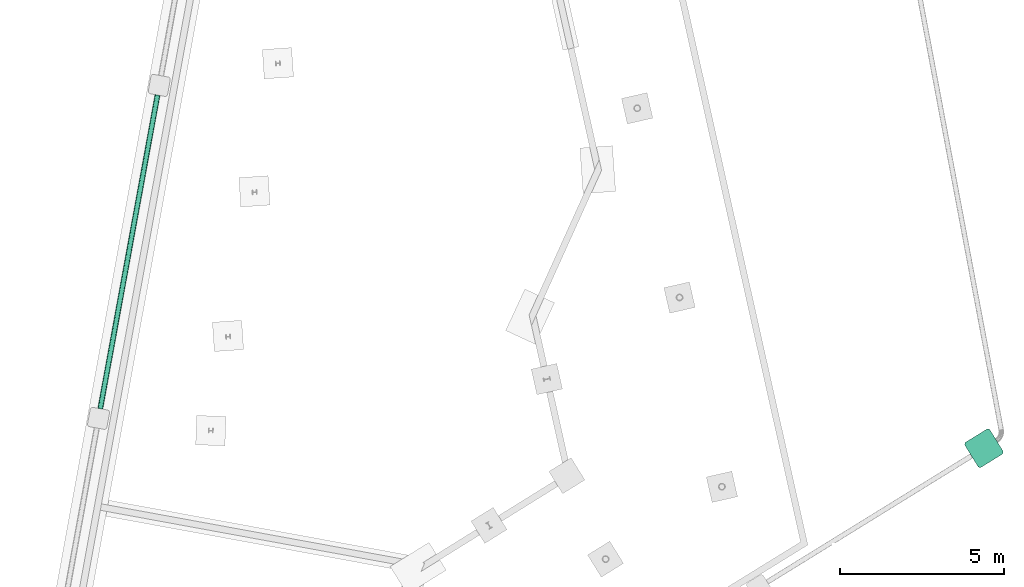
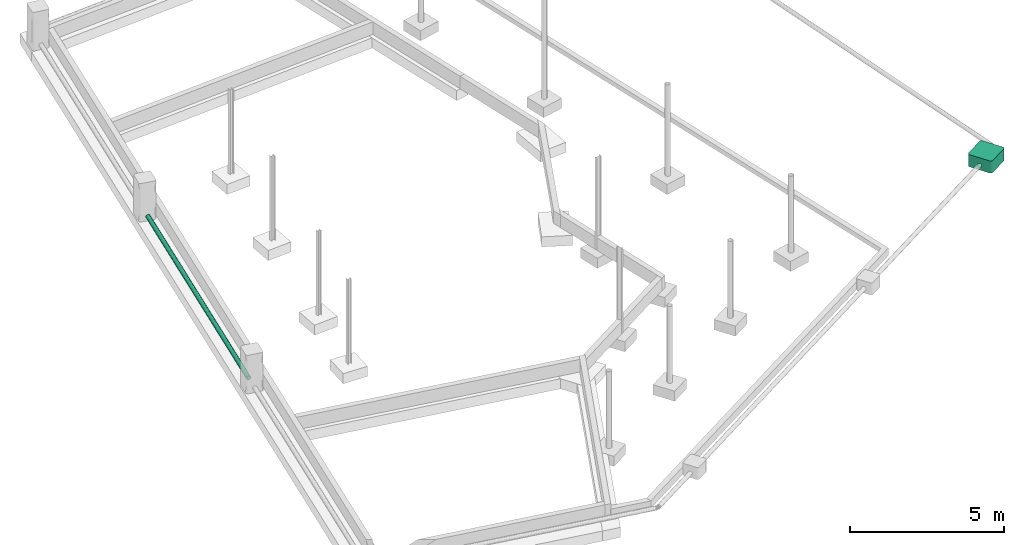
# One storey, part 10 of 17: 1 flow controller, 1 flow segment.
"""IFC2X3 building model written with IfcOpenShell, lengths in centimetres."""

import ifcopenshell
import ifcopenshell.guid

model = None  # the IFC model being written
_history = None  # IfcOwnerHistory: only IFC2X3 demands one
_inside = {}  # id of a spatial element -> (the spatial element, [elements in it])
_under = {}  # id of a project, library or spatial element -> (it, [spatial elements below it])
_declared = {}  # id of a project -> (the project, [libraries it declares])
_typed = {}  # id of a type object -> (the type object, [elements of that type])
_made_of = {}  # id of a material, layer set ... -> (it, [elements and type objects made of it])


def new_model(schema):
    """Start an empty IFC model of exactly this schema.

    Asked for "IFC4X3", IfcOpenShell would pick the latest addendum, in which some entities
    have other attributes; the version numbers below select the first issue.
    IFC2X3 requires an IfcOwnerHistory on every rooted entity: one is made here for all.
    """
    global model, _history
    if schema == "IFC4X3":
        model = ifcopenshell.file(schema_version=(4, 3, 0, 0))
    else:
        model = ifcopenshell.file(schema=schema)
    _inside.clear()
    _under.clear()
    _declared.clear()
    _typed.clear()
    _made_of.clear()
    _history = None
    if model.schema == "IFC2X3":
        org = make("IfcOrganization", Name="unknown")
        user = make(
            "IfcPersonAndOrganization",
            ThePerson=make("IfcPerson", FamilyName="unknown"),
            TheOrganization=org,
        )
        app = make(
            "IfcApplication",
            ApplicationDeveloper=org,
            Version="unknown",
            ApplicationFullName="unknown",
            ApplicationIdentifier="unknown",
        )
        _history = make(
            "IfcOwnerHistory",
            OwningUser=user,
            OwningApplication=app,
            ChangeAction="ADDED",
            CreationDate=0,
        )
    return model


def make(cls, **values):
    """One entity of the class cls with the attributes given. An attribute that is None is left unset."""
    return model.create_entity(
        cls, **{name: value for name, value in values.items() if value is not None}
    )


def entity(cls, *values):
    """Any entity or typed value of the class cls, its attributes in the order of the schema. None: left unset."""
    e = model.create_entity(cls)
    for i, value in enumerate(values):
        if value is not None:
            e[i] = value
    return e


def rooted(cls, **values):
    """An entity with a GlobalId (a new one), such as an element, a storey or a relation."""
    return make(cls, GlobalId=ifcopenshell.guid.new(), OwnerHistory=_history, **values)


def si_unit(unit_type, name, prefix=None):
    """IfcSIUnit, for example si_unit("LENGTHUNIT", "METRE", prefix="MILLI")."""
    return make("IfcSIUnit", UnitType=unit_type, Prefix=prefix, Name=name)


def converted_unit(unit_type, name, factor, base, dimensions=None, offset=None):
    """IfcConversionBasedUnit, such as the inch: factor (a typed value) times the base unit."""
    return make(
        "IfcConversionBasedUnit"
        if offset is None
        else "IfcConversionBasedUnitWithOffset",
        ConversionOffset=offset,
        Dimensions=None
        if dimensions is None
        else entity("IfcDimensionalExponents", *dimensions),
        UnitType=unit_type,
        Name=name,
        ConversionFactor=make(
            "IfcMeasureWithUnit", ValueComponent=factor, UnitComponent=base
        ),
    )


def derived_unit(unit_type, elements):
    """IfcDerivedUnit: a product of units, each with its exponent."""
    return make(
        "IfcDerivedUnit",
        Elements=[
            make("IfcDerivedUnitElement", Unit=unit, Exponent=power)
            for unit, power in elements
        ],
        UnitType=unit_type,
    )


def assignment(units):
    """IfcUnitAssignment: the units of a project."""
    return None if units is None else make("IfcUnitAssignment", Units=units)


def point(xyz):
    """IfcCartesianPoint."""
    return None if xyz is None else make("IfcCartesianPoint", Coordinates=xyz)


def direction(xyz):
    """IfcDirection."""
    return None if xyz is None else make("IfcDirection", DirectionRatios=xyz)


def frame(location, z_axis=None, x_axis=None):
    """IfcAxis2Placement3D, a coordinate frame: its origin and axes. An axis left out is left unset."""
    return make(
        "IfcAxis2Placement3D",
        Location=point(location),
        Axis=direction(z_axis),
        RefDirection=direction(x_axis),
    )


def frame_2d(location, x_axis=None):
    """IfcAxis2Placement2D, a coordinate frame in the plane: its origin and x axis."""
    return make(
        "IfcAxis2Placement2D", Location=point(location), RefDirection=direction(x_axis)
    )


def origin():
    """The frame at (0, 0, 0) with its axes left unset."""
    return frame((0.0, 0.0, 0.0))


def origin_2d_with_axis():
    """The frame at (0, 0) in the plane with the x axis (1, 0) written out."""
    return frame_2d((0.0, 0.0), x_axis=(1.0, 0.0))


def place(relative_to, where):
    """IfcLocalPlacement: puts the frame where relative to a parent placement (None: the world)."""
    return make(
        "IfcLocalPlacement", PlacementRelTo=relative_to, RelativePlacement=where
    )


def context(
    kind, dimensions, precision=None, world=None, true_north=None, identifier=None
):
    """IfcGeometricRepresentationContext, for example the 3D "Model" context."""
    return make(
        "IfcGeometricRepresentationContext",
        ContextIdentifier=identifier,
        ContextType=kind,
        CoordinateSpaceDimension=dimensions,
        Precision=precision,
        WorldCoordinateSystem=world,
        TrueNorth=true_north,
    )


def subcontext(parent, identifier, kind, view, scale=None):
    """IfcGeometricRepresentationSubContext, for example "Body" below "Model"."""
    return make(
        "IfcGeometricRepresentationSubContext",
        ContextIdentifier=identifier,
        ContextType=kind,
        ParentContext=parent,
        TargetScale=scale,
        TargetView=view,
    )


def project(units=None, contexts=None):
    """IfcProject with its units and contexts."""
    return rooted(
        "IfcProject",
        Name="project",
        RepresentationContexts=contexts,
        UnitsInContext=assignment(units),
    )


def spatial(cls, under=None, at=None, **own):
    """A site, building, storey or space (cls), placed at a placement, below another one or the project."""
    s = rooted(cls, ObjectPlacement=at, **own)
    if under is not None:
        _under.setdefault(under.id(), (under, []))[1].append(s)
    return s


def profile(cls, at=None, kind="AREA", **sizes):
    """A parametric profile (cls). Its sizes go by their IFC names, for example OverallWidth=200.0."""
    return make(cls, ProfileType=kind, Position=at, **sizes)


def circle(**sizes):
    """IfcCircleProfileDef."""
    return profile("IfcCircleProfileDef", **sizes)


def extrude(swept, where, along, depth):
    """IfcExtrudedAreaSolid: the profile swept, set in the frame where, extruded along a direction by depth."""
    return make(
        "IfcExtrudedAreaSolid",
        SweptArea=swept,
        Position=where,
        ExtrudedDirection=direction(along),
        Depth=depth,
    )


def faces_of(points, faces, orient=None, outer=None):
    """IfcFace entities. A face is a list of loops; a loop is a list of indices into points, from 0.

    orient and outer hold one flag for each loop. By default every Orientation is true, the
    first loop of a face is its IfcFaceOuterBound and the others are IfcFaceBound.
    """
    made = []
    for i, loops in enumerate(faces):
        bounds = []
        for j, loop in enumerate(loops):
            is_outer = j == 0 if outer is None else outer[i][j]
            bounds.append(
                make(
                    "IfcFaceOuterBound" if is_outer else "IfcFaceBound",
                    Bound=make("IfcPolyLoop", Polygon=[points[k] for k in loop]),
                    Orientation=True if orient is None else orient[i][j],
                )
            )
        made.append(make("IfcFace", Bounds=bounds))
    return made


def faceted_brep(points, faces, orient=None, outer=None, voids=None):
    """IfcFacetedBrep: a solid bounded by flat faces; with voids (closed shells), ...WithVoids."""
    shared = [point(p) for p in points]
    hull = make("IfcClosedShell", CfsFaces=faces_of(shared, faces, orient, outer))
    if voids is None:
        return make("IfcFacetedBrep", Outer=hull)
    return make(
        "IfcFacetedBrepWithVoids",
        Outer=hull,
        Voids=[
            make(cls, CfsFaces=faces_of(shared, fs, o, b)) for cls, fs, o, b in voids
        ],
    )


def shape(context_of_items, identifier, shape_type, items):
    """IfcShapeRepresentation: the items that make up one representation, for example the "Body"."""
    return make(
        "IfcShapeRepresentation",
        ContextOfItems=context_of_items,
        RepresentationIdentifier=identifier,
        RepresentationType=shape_type,
        Items=items,
    )


def source(mapping_origin, context_of_items, identifier, shape_type, items):
    """IfcRepresentationMap: a shape defined once, which mapped items show again and again."""
    return make(
        "IfcRepresentationMap",
        MappingOrigin=mapping_origin,
        MappedRepresentation=shape(context_of_items, identifier, shape_type, items),
    )


def transform(
    local_origin,
    x_axis=None,
    y_axis=None,
    z_axis=None,
    scale=None,
    scale2=None,
    scale3=None,
    uniform=True,
):
    """IfcCartesianTransformationOperator3D, or its non-uniform kind. x_axis, y_axis, z_axis: its Axis1, 2, 3."""
    if uniform:
        return make(
            "IfcCartesianTransformationOperator3D",
            Axis1=direction(x_axis),
            Axis2=direction(y_axis),
            LocalOrigin=point(local_origin),
            Scale=scale,
            Axis3=direction(z_axis),
        )
    return make(
        "IfcCartesianTransformationOperator3DnonUniform",
        Axis1=direction(x_axis),
        Axis2=direction(y_axis),
        LocalOrigin=point(local_origin),
        Scale=scale,
        Axis3=direction(z_axis),
        Scale2=scale2,
        Scale3=scale3,
    )


def mapped(mapping_source, mapping_target):
    """IfcMappedItem: shows the shape of a source again, moved by a transform."""
    return make(
        "IfcMappedItem", MappingSource=mapping_source, MappingTarget=mapping_target
    )


def material(Name=None, Category=None):
    """IfcMaterial."""
    return make("IfcMaterial", Name=Name, Category=Category)


def made_of(thing, what):
    """Note that an element or type object is made of a material, layer set ...; save() writes the relation."""
    if what is not None:
        _made_of.setdefault(what.id(), (what, []))[1].append(thing)
    return thing


def type_object(cls, material=None, **own):
    """A type object (cls), such as IfcWallType, which elements share."""
    return made_of(rooted(cls, **own), material)


def type_shapes(of_type, sources):
    """Give a type object the sources (RepresentationMaps) that its elements show as mapped items."""
    of_type.RepresentationMaps = sources


def element(
    cls,
    number,
    at=None,
    inside=None,
    cuts=None,
    type_object=None,
    material=None,
    context=None,
    identifier="Body",
    shape_type=None,
    held_by="IfcProductDefinitionShape",
    body=None,
    shapes=None,
    **own,
):
    """One element of the class cls, such as IfcWall. Its Tag is "e" and its number.

    at: its placement. inside: the storey or other place that contains it. cuts: it is an
    opening in that element (IfcRelVoidsElement). A single representation is given by context,
    identifier, shape_type and body (its items); several are given by shapes. held_by: the class
    of the entity that holds the representations. save() writes the other relations.
    """
    e = rooted(cls, Tag="e%d" % number, ObjectPlacement=at, **own)
    if body is not None:
        shapes = [shape(context, identifier, shape_type, body)]
    if shapes is not None:
        e.Representation = make(held_by, Representations=shapes)
    if inside is not None:
        _inside.setdefault(inside.id(), (inside, []))[1].append(e)
    if cuts is not None:
        rooted(
            "IfcRelVoidsElement", RelatingBuildingElement=cuts, RelatedOpeningElement=e
        )
    if type_object is not None:
        _typed.setdefault(type_object.id(), (type_object, []))[1].append(e)
    return made_of(e, material)


def aggregate(whole, parts):
    """IfcRelAggregates: a whole, such as a stair, and the parts it consists of."""
    return rooted("IfcRelAggregates", RelatingObject=whole, RelatedObjects=parts)


def save(model, path):
    """Write the relations noted so far, then the file.

    IfcRelAggregates (storeys below a building ...), IfcRelContainedInSpatialStructure (elements
    in a storey), IfcRelDefinesByType, IfcRelAssociatesMaterial and IfcRelDeclares: one each for
    every whole, place, type object, material and project.
    """
    for whole, parts in _under.values():
        aggregate(whole, parts)
    for where, things in _inside.values():
        rooted(
            "IfcRelContainedInSpatialStructure",
            RelatedElements=things,
            RelatingStructure=where,
        )
    for kind, things in _typed.values():
        rooted("IfcRelDefinesByType", RelatedObjects=things, RelatingType=kind)
    for what, things in _made_of.values():
        rooted("IfcRelAssociatesMaterial", RelatedObjects=things, RelatingMaterial=what)
    for by, libraries in _declared.values():
        rooted("IfcRelDeclares", RelatingContext=by, RelatedDefinitions=libraries)
    model.write(path)


model = new_model("IFC2X3")

# Units and contexts
model_context = context("Model", 3, precision=0.001, world=origin(), true_north=direction((6.12303176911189e-17, 1.0)))
body_context = subcontext(model_context, "Body", "Model", "MODEL_VIEW")
ifc_project = project(units=[si_unit("LENGTHUNIT", "METRE", prefix="CENTI"), si_unit("AREAUNIT", "SQUARE_METRE"), si_unit("VOLUMEUNIT", "CUBIC_METRE"), converted_unit("PLANEANGLEUNIT", "DEGREE", entity("IfcRatioMeasure", 0.0174532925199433), si_unit("PLANEANGLEUNIT", "RADIAN"), dimensions=[0, 0, 0, 0, 0, 0, 0]), si_unit("MASSUNIT", "GRAM", prefix="KILO"), derived_unit("MASSDENSITYUNIT", [(si_unit("MASSUNIT", "GRAM", prefix="KILO"), 1), (si_unit("LENGTHUNIT", "METRE"), -3)]), si_unit("TIMEUNIT", "SECOND"), si_unit("FREQUENCYUNIT", "HERTZ"), si_unit("THERMODYNAMICTEMPERATUREUNIT", "DEGREE_CELSIUS"), derived_unit("THERMALTRANSMITTANCEUNIT", [(si_unit("MASSUNIT", "GRAM", prefix="KILO"), 1), (si_unit("THERMODYNAMICTEMPERATUREUNIT", "KELVIN"), -1), (si_unit("TIMEUNIT", "SECOND"), -3)]), derived_unit("VOLUMETRICFLOWRATEUNIT", [(si_unit("LENGTHUNIT", "METRE"), 3), (si_unit("TIMEUNIT", "SECOND"), -1)]), si_unit("ELECTRICCURRENTUNIT", "AMPERE"), si_unit("ELECTRICVOLTAGEUNIT", "VOLT"), si_unit("POWERUNIT", "WATT"), si_unit("FORCEUNIT", "NEWTON", prefix="KILO"), si_unit("ILLUMINANCEUNIT", "LUX"), si_unit("LUMINOUSFLUXUNIT", "LUMEN"), si_unit("LUMINOUSINTENSITYUNIT", "CANDELA"), derived_unit("USERDEFINED", [(si_unit("MASSUNIT", "GRAM", prefix="KILO"), -1), (si_unit("LENGTHUNIT", "METRE"), -2), (si_unit("TIMEUNIT", "SECOND"), 3), (si_unit("LUMINOUSFLUXUNIT", "LUMEN"), 1)]), derived_unit("LINEARVELOCITYUNIT", [(si_unit("LENGTHUNIT", "METRE"), 1), (si_unit("TIMEUNIT", "SECOND"), -1)]), si_unit("PRESSUREUNIT", "PASCAL"), derived_unit("USERDEFINED", [(si_unit("LENGTHUNIT", "METRE"), -2), (si_unit("MASSUNIT", "GRAM", prefix="KILO"), 1), (si_unit("TIMEUNIT", "SECOND"), -2)])], contexts=[model_context])

# Site, building, storey
site_placement = place(None, frame((2611.71187422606, 13650.4058644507, 0.0), z_axis=(0.0, 0.0, 1.0), x_axis=(0.0673222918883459, -0.997731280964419, 0.0)))
site = spatial("IfcSite", under=ifc_project, at=site_placement, Name="Surface", CompositionType="ELEMENT")
building_placement = place(site_placement, origin())
building = spatial("IfcBuilding", under=site, at=building_placement, CompositionType="ELEMENT")
storey_placement = place(building_placement, frame((0.0, 0.0, 86950.0)))
storey = spatial("IfcBuildingStorey", under=building, at=storey_placement, Name="-1 Soubassement", CompositionType="ELEMENT", Elevation=86950.0)

# Flow controller
ifc_material = material(Name="Béton, précoulé")
valve_type = type_object("IfcValveType", Name="Regard EP 900x900", PredefinedType="NOTDEFINED", material=ifc_material)
shared_shape = source(origin(), body_context, "Body", "Brep", [
    faceted_brep([(82.1595272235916, 90.1595272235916, 48.0), (8.15952722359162, 90.1595272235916, 48.0), (6.08897486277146, 89.8869338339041, 48.0), (4.15952722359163, 89.0877304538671, 48.0), (2.50267297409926, 87.816381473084, 48.0), (1.23132399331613, 86.1595272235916, 48.0), (0.43212061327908, 84.2300795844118, 48.0), (0.159527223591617, 82.1595272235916, 48.0), (0.159527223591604, 8.15952722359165, 48.0), (0.432120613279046, 6.08897486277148, 48.0), (1.23132399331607, 4.15952722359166, 48.0), (2.50267297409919, 2.50267297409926, 48.0), (4.15952722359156, 1.23132399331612, 48.0), (6.08897486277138, 0.43212061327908, 48.0), (8.15952722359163, 0.159527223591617, 48.0), (82.1595272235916, 0.159527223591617, 48.0), (84.2300795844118, 0.43212061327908, 48.0), (86.1595272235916, 1.23132399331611, 48.0), (87.816381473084, 2.50267297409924, 48.0), (89.0877304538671, 4.15952722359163, 48.0), (89.8869338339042, 6.08897486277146, 48.0), (90.1595272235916, 8.15952722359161, 48.0), (90.1595272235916, 82.1595272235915, 48.0), (89.8869338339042, 84.2300795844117, 48.0), (89.0877304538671, 86.1595272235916, 48.0), (87.816381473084, 87.8163814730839, 48.0), (86.1595272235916, 89.0877304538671, 48.0), (84.2300795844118, 89.8869338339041, 48.0), (0.159527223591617, 82.1595272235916, 43.0), (0.43212061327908, 84.2300795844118, 43.0), (1.23132399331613, 86.1595272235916, 43.0), (2.50267297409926, 87.816381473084, 43.0), (4.15952722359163, 89.0877304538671, 43.0), (6.08897486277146, 89.8869338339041, 43.0), (8.15952722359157, 90.1595272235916, 43.0), (82.1595272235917, 90.1595272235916, 43.0), (84.2300795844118, 89.8869338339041, 43.0), (86.1595272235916, 89.0877304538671, 43.0), (87.816381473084, 87.8163814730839, 43.0), (89.0877304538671, 86.1595272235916, 43.0), (89.8869338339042, 84.2300795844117, 43.0), (90.1595272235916, 82.1595272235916, 43.0), (90.1595272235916, 8.15952722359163, 43.0), (89.8869338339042, 6.08897486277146, 43.0), (89.0877304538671, 4.15952722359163, 43.0), (87.816381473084, 2.50267297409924, 43.0), (86.1595272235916, 1.23132399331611, 43.0), (84.2300795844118, 0.43212061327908, 43.0), (82.1595272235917, 0.159527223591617, 43.0), (8.15952722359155, 0.159527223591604, 43.0), (6.08897486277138, 0.43212061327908, 43.0), (4.15952722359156, 1.23132399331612, 43.0), (2.50267297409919, 2.50267297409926, 43.0), (1.23132399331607, 4.15952722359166, 43.0), (0.432120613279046, 6.08897486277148, 43.0), (0.159527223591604, 8.15952722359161, 43.0)], [[[0, 1, 2, 3, 4, 5, 6, 7, 8, 9, 10, 11, 12, 13, 14, 15, 16, 17, 18, 19, 20, 21, 22, 23, 24, 25, 26, 27]], [[28, 29, 30, 31, 32, 33, 34, 35, 36, 37, 38, 39, 40, 41, 42, 43, 44, 45, 46, 47, 48, 49, 50, 51, 52, 53, 54, 55]], [[1, 0, 35, 34]], [[2, 1, 34, 33]], [[3, 2, 33, 32]], [[4, 3, 32, 31]], [[29, 28, 7, 6]], [[5, 4, 31, 30]], [[30, 29, 6, 5]], [[8, 7, 28, 55]], [[9, 8, 55, 54]], [[10, 9, 54, 53]], [[11, 10, 53, 52]], [[50, 49, 14, 13]], [[12, 51, 50, 13]], [[51, 12, 11, 52]], [[15, 14, 49, 48]], [[16, 15, 48, 47]], [[17, 16, 47, 46]], [[18, 17, 46, 45]], [[45, 44, 19, 18]], [[19, 44, 43, 20]], [[21, 20, 43, 42]], [[22, 21, 42, 41]], [[23, 22, 41, 40]], [[24, 23, 40, 39]], [[25, 24, 39, 38]], [[26, 25, 38, 37]], [[26, 37, 36, 27]], [[36, 35, 0, 27]]]),
    faceted_brep([(0.159527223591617, 82.1595272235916, 0.0), (0.432120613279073, 84.2300795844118, 0.0), (1.23132399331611, 86.1595272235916, 0.0), (2.50267297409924, 87.816381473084, 0.0), (4.15952722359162, 89.0877304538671, 0.0), (6.08897486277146, 89.8869338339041, 0.0), (8.15952722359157, 90.1595272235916, 0.0), (82.1595272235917, 90.1595272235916, 0.0), (84.2300795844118, 89.8869338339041, 0.0), (86.1595272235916, 89.0877304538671, 0.0), (87.816381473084, 87.8163814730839, 0.0), (89.0877304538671, 86.1595272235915, 0.0), (89.8869338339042, 84.2300795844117, 0.0), (90.1595272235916, 82.1595272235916, 0.0), (90.1595272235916, 8.15952722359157, 0.0), (89.8869338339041, 6.0889748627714, 0.0), (89.0877304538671, 4.15952722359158, 0.0), (87.816381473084, 2.5026729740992, 0.0), (86.1595272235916, 1.23132399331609, 0.0), (84.2300795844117, 0.43212061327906, 0.0), (82.1595272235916, 0.159527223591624, 0.0), (8.15952722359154, 0.159527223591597, 0.0), (6.08897486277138, 0.43212061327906, 0.0), (4.15952722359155, 1.23132399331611, 0.0), (2.50267297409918, 2.50267297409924, 0.0), (1.23132399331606, 4.15952722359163, 0.0), (0.43212061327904, 6.08897486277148, 0.0), (0.159527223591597, 8.15952722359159, 0.0), (87.816381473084, 87.8163814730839, 5.0), (86.1595272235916, 89.0877304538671, 5.0), (84.2300795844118, 89.8869338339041, 5.0), (82.1595272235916, 90.1595272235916, 5.0), (8.15952722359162, 90.1595272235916, 5.0), (6.08897486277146, 89.8869338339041, 5.0), (4.15952722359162, 89.0877304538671, 5.0), (2.50267297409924, 87.816381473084, 5.0), (1.23132399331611, 86.1595272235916, 5.0), (0.432120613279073, 84.2300795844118, 5.0), (0.159527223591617, 82.1595272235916, 5.0), (0.159527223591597, 8.15952722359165, 5.0), (0.43212061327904, 6.08897486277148, 5.0), (1.23132399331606, 4.15952722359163, 5.0), (2.50267297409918, 2.50267297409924, 5.0), (4.15952722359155, 1.23132399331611, 5.0), (6.08897486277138, 0.43212061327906, 5.0), (8.15952722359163, 0.15952722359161, 5.0), (82.1595272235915, 0.159527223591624, 5.0), (84.2300795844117, 0.43212061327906, 5.0), (86.1595272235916, 1.23132399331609, 5.0), (87.816381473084, 2.5026729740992, 5.0), (89.0877304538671, 4.15952722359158, 5.0), (89.8869338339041, 6.0889748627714, 5.0), (90.1595272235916, 8.15952722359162, 5.0), (90.1595272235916, 82.1595272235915, 5.0), (89.8869338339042, 84.2300795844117, 5.0), (89.0877304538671, 86.1595272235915, 5.0)], [[[0, 1, 2, 3, 4, 5, 6, 7, 8, 9, 10, 11, 12, 13, 14, 15, 16, 17, 18, 19, 20, 21, 22, 23, 24, 25, 26, 27]], [[28, 29, 30, 31, 32, 33, 34, 35, 36, 37, 38, 39, 40, 41, 42, 43, 44, 45, 46, 47, 48, 49, 50, 51, 52, 53, 54, 55]], [[32, 31, 7, 6]], [[39, 38, 0, 27]], [[46, 45, 21, 20]], [[53, 52, 14, 13]], [[33, 32, 6, 5]], [[34, 33, 5, 4]], [[35, 34, 4, 3]], [[1, 0, 38, 37]], [[36, 35, 3, 2]], [[2, 1, 37, 36]], [[40, 39, 27, 26]], [[41, 40, 26, 25]], [[42, 41, 25, 24]], [[22, 21, 45, 44]], [[43, 23, 22, 44]], [[23, 43, 42, 24]], [[47, 46, 20, 19]], [[48, 47, 19, 18]], [[49, 48, 18, 17]], [[17, 16, 50, 49]], [[50, 16, 15, 51]], [[52, 51, 15, 14]], [[54, 53, 13, 12]], [[55, 54, 12, 11]], [[28, 55, 11, 10]], [[29, 28, 10, 9]], [[29, 9, 8, 30]], [[8, 7, 31, 30]]]),
    faceted_brep([(86.1595272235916, 1.23132399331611, 43.0), (83.6595272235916, 5.56145101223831, 43.0), (84.2300795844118, 0.432120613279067, 43.0), (84.2808475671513, 6.03820688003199, 43.0), (87.816381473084, 2.50267297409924, 43.0), (89.0877304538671, 4.15952722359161, 43.0), (84.7576034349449, 6.65952722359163, 43.0), (89.8869338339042, 6.08897486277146, 43.0), (85.0573047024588, 7.38307008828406, 43.0), (90.1595272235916, 8.15952722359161, 43.0), (85.1595272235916, 8.15952722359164, 43.0), (85.1595272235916, 82.1595272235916, 43.0), (90.1595272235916, 82.1595272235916, 43.0), (85.0573047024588, 82.9359843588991, 43.0), (89.8869338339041, 84.2300795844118, 43.0), (84.7576034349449, 83.6595272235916, 43.0), (89.0877304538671, 86.1595272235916, 43.0), (84.2808475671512, 84.2808475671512, 43.0), (87.816381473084, 87.816381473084, 43.0), (86.1595272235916, 89.0877304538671, 43.0), (83.6595272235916, 84.7576034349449, 43.0), (84.2300795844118, 89.8869338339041, 43.0), (82.9359843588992, 85.0573047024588, 43.0), (82.1595272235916, 90.1595272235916, 43.0), (82.1595272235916, 85.1595272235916, 43.0), (8.15952722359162, 85.1595272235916, 43.0), (8.15952722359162, 90.1595272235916, 43.0), (7.38307008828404, 85.0573047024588, 43.0), (6.08897486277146, 89.8869338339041, 43.0), (6.65952722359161, 84.7576034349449, 43.0), (4.15952722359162, 89.0877304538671, 43.0), (6.03820688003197, 84.2808475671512, 43.0), (2.50267297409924, 87.816381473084, 43.0), (1.23132399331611, 86.1595272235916, 43.0), (5.56145101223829, 83.6595272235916, 43.0), (0.432120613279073, 84.2300795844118, 43.0), (5.26174974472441, 82.9359843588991, 43.0), (0.159527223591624, 82.1595272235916, 43.0), (5.15952722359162, 82.1595272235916, 43.0), (0.159527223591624, 8.15952722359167, 43.0), (5.15952722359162, 8.1595272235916, 43.0), (5.26174974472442, 7.38307008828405, 43.0), (0.43212061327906, 6.08897486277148, 43.0), (5.5614510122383, 6.6595272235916, 43.0), (1.23132399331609, 4.15952722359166, 43.0), (6.03820688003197, 6.03820688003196, 43.0), (2.5026729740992, 2.50267297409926, 43.0), (4.15952722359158, 1.23132399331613, 43.0), (6.65952722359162, 5.5614510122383, 43.0), (6.0889748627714, 0.43212061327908, 43.0), (7.38307008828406, 5.26174974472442, 43.0), (8.15952722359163, 0.159527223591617, 43.0), (8.15952722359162, 5.15952722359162, 43.0), (82.1595272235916, 0.159527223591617, 43.0), (82.9359843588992, 5.26174974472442, 43.0), (82.1595272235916, 5.15952722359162, 43.0), (86.1595272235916, 89.0877304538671, 5.0), (83.6595272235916, 84.7576034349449, 5.0), (84.2300795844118, 89.8869338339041, 5.0), (84.2808475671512, 84.2808475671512, 5.0), (87.816381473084, 87.816381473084, 5.0), (89.0877304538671, 86.1595272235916, 5.0), (84.7576034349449, 83.6595272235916, 5.0), (89.8869338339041, 84.2300795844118, 5.0), (85.0573047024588, 82.9359843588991, 5.0), (90.1595272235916, 82.1595272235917, 5.0), (85.1595272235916, 82.1595272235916, 5.0), (85.1595272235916, 8.15952722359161, 5.0), (90.1595272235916, 8.15952722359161, 5.0), (85.0573047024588, 7.38307008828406, 5.0), (89.8869338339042, 6.08897486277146, 5.0), (84.7576034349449, 6.65952722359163, 5.0), (89.0877304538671, 4.15952722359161, 5.0), (84.2808475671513, 6.03820688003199, 5.0), (87.816381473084, 2.50267297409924, 5.0), (86.1595272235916, 1.23132399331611, 5.0), (83.6595272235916, 5.56145101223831, 5.0), (84.2300795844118, 0.432120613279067, 5.0), (82.9359843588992, 5.26174974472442, 5.0), (82.1595272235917, 0.159527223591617, 5.0), (82.1595272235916, 5.15952722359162, 5.0), (8.15952722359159, 5.15952722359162, 5.0), (8.15952722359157, 0.159527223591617, 5.0), (7.38307008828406, 5.26174974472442, 5.0), (6.0889748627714, 0.43212061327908, 5.0), (6.65952722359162, 5.5614510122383, 5.0), (4.15952722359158, 1.23132399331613, 5.0), (6.03820688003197, 6.03820688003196, 5.0), (2.5026729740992, 2.50267297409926, 5.0), (1.23132399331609, 4.15952722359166, 5.0), (5.5614510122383, 6.6595272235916, 5.0), (0.43212061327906, 6.08897486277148, 5.0), (5.26174974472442, 7.38307008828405, 5.0), (0.159527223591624, 8.15952722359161, 5.0), (5.15952722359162, 8.15952722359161, 5.0), (0.159527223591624, 82.1595272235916, 5.0), (5.15952722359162, 82.1595272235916, 5.0), (5.26174974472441, 82.9359843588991, 5.0), (0.432120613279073, 84.2300795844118, 5.0), (5.56145101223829, 83.6595272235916, 5.0), (1.23132399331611, 86.1595272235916, 5.0), (6.03820688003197, 84.2808475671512, 5.0), (2.50267297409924, 87.816381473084, 5.0), (4.15952722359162, 89.0877304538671, 5.0), (6.65952722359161, 84.7576034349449, 5.0), (6.08897486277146, 89.8869338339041, 5.0), (7.38307008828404, 85.0573047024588, 5.0), (8.15952722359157, 90.1595272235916, 5.0), (8.15952722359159, 85.1595272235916, 5.0), (82.1595272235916, 90.1595272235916, 5.0), (82.9359843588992, 85.0573047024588, 5.0), (82.1595272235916, 85.1595272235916, 5.0), (49.1595272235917, 90.1595272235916, 24.9282032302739), (47.2300795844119, 90.1595272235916, 25.7274066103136), (50.8163814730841, 90.1595272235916, 23.6568542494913), (45.1595272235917, 90.1595272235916, 26.0), (52.0877304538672, 90.1595272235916, 22.0), (52.8869338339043, 90.1595272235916, 20.0705523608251), (53.1595272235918, 90.1595272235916, 18.0), (52.8869338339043, 90.1595272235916, 15.9294476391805), (52.0877304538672, 90.1595272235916, 14.0), (50.8163814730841, 90.1595272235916, 12.3431457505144), (49.1595272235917, 90.1595272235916, 11.0717967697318), (47.2300795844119, 90.1595272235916, 10.2725933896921), (45.1595272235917, 90.1595272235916, 10.0), (37.4321206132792, 90.1595272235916, 20.0705523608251), (43.0889748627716, 90.1595272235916, 10.2725933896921), (41.1595272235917, 90.1595272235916, 11.0717967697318), (39.5026729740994, 90.1595272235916, 12.3431457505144), (38.2313239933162, 90.1595272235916, 14.0), (37.4321206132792, 90.1595272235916, 15.9294476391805), (37.1595272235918, 90.1595272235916, 18.0), (38.2313239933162, 90.1595272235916, 22.0), (43.0889748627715, 90.1595272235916, 25.7274066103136), (41.1595272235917, 90.1595272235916, 24.9282032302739), (39.5026729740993, 90.1595272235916, 23.6568542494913), (41.15952722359, 0.159527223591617, 24.9282032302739), (43.0889748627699, 0.159527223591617, 25.7274066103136), (39.5026729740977, 0.159527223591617, 23.6568542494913), (45.15952722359, 0.159527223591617, 26.0), (38.2313239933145, 0.159527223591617, 22.0), (37.4321206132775, 0.159527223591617, 20.0705523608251), (37.1595272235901, 0.159527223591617, 18.0), (37.4321206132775, 0.159527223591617, 15.9294476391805), (38.2313239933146, 0.159527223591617, 14.0), (39.5026729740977, 0.159527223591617, 12.3431457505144), (41.1595272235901, 0.159527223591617, 11.0717967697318), (43.0889748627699, 0.159527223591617, 10.2725933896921), (45.1595272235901, 0.159527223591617, 10.0), (52.8869338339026, 0.159527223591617, 20.0705523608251), (47.2300795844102, 0.159527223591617, 10.2725933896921), (49.1595272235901, 0.159527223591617, 11.0717967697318), (50.8163814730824, 0.159527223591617, 12.3431457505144), (52.0877304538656, 0.159527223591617, 14.0), (52.8869338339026, 0.159527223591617, 15.9294476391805), (53.1595272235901, 0.159527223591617, 18.0), (52.0877304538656, 0.159527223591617, 22.0), (47.2300795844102, 0.159527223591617, 25.7274066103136), (49.15952722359, 0.159527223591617, 24.9282032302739), (50.8163814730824, 0.159527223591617, 23.6568542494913), (38.2313239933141, 5.15952722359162, 14.0), (37.432120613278, 5.15952722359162, 15.9294476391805), (37.4321206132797, 85.1595272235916, 15.9294476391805), (38.2313239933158, 85.1595272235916, 14.0), (37.15952722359, 5.15952722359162, 18.0), (37.1595272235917, 85.1595272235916, 18.0), (43.0889748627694, 5.15952722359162, 10.2725933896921), (41.1595272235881, 5.15952722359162, 11.0717967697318), (41.1595272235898, 85.1595272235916, 11.0717967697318), (43.0889748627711, 85.1595272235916, 10.2725933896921), (39.5026729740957, 5.15952722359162, 12.3431457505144), (39.5026729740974, 85.1595272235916, 12.3431457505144), (45.15952722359, 5.15952722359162, 10.0), (45.1595272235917, 85.1595272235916, 10.0), (47.2300795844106, 5.15952722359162, 10.2725933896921), (47.2300795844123, 85.1595272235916, 10.2725933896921), (49.1595272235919, 5.15952722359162, 11.0717967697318), (49.1595272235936, 85.1595272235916, 11.0717967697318), (52.0877304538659, 5.15952722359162, 14.0), (50.8163814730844, 5.15952722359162, 12.3431457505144), (50.8163814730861, 85.1595272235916, 12.3431457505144), (52.0877304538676, 85.1595272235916, 14.0), (52.886933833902, 5.15952722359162, 15.9294476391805), (52.8869338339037, 85.1595272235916, 15.9294476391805), (53.15952722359, 5.15952722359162, 18.0), (53.1595272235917, 85.1595272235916, 18.0), (52.0877304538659, 5.15952722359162, 22.0), (52.8869338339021, 5.15952722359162, 20.0705523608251), (52.8869338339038, 85.1595272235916, 20.0705523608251), (52.0877304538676, 85.1595272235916, 22.0), (47.2300795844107, 5.15952722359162, 25.7274066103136), (49.159527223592, 5.15952722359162, 24.9282032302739), (49.1595272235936, 85.1595272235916, 24.9282032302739), (47.2300795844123, 85.1595272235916, 25.7274066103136), (50.8163814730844, 5.15952722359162, 23.6568542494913), (50.8163814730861, 85.1595272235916, 23.6568542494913), (45.15952722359, 5.15952722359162, 26.0), (45.1595272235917, 85.1595272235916, 26.0), (43.0889748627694, 5.15952722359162, 25.7274066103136), (43.0889748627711, 85.1595272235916, 25.7274066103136), (41.1595272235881, 5.15952722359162, 24.9282032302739), (41.1595272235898, 85.1595272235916, 24.9282032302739), (37.432120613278, 5.15952722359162, 20.0705523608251), (38.2313239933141, 5.15952722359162, 22.0), (38.2313239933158, 85.1595272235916, 22.0), (37.4321206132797, 85.1595272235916, 20.0705523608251), (39.5026729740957, 5.15952722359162, 23.6568542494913), (39.5026729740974, 85.1595272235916, 23.6568542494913), (8.15952722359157, 85.1595272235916, 23.8751470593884), (82.1595272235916, 85.1595272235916, 24.1248529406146), (83.3075775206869, 84.9311658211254, 24.0), (82.7444457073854, 85.1019531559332, 21.2463431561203), (84.9311658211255, 83.3075775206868, 24.0), (85.1018157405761, 82.7451365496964, 21.2342534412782), (83.9858115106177, 84.5395872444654, 24.0), (84.5395872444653, 83.9858115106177, 24.0), (85.1595272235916, 82.1595272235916, 23.8751470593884), (85.1595272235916, 8.15952722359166, 24.1248529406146), (84.5395872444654, 6.33324293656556, 24.0), (83.3075775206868, 5.38788862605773, 24.0), (82.7451365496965, 5.21723870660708, 21.2342534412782), (84.9311658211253, 7.01147692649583, 24.0), (85.1018157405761, 7.57391789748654, 26.7657465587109), (83.9858115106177, 5.77946720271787, 24.0), (82.1595272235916, 5.15952722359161, 23.8751470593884), (8.15952722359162, 5.15952722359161, 24.1248529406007), (7.57460873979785, 5.21710129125, 21.2463431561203), (7.01147692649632, 5.38788862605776, 24.0), (5.38788862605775, 7.01147692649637, 24.0), (5.21723870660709, 7.57391789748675, 21.2342534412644), (6.33324293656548, 5.77946720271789, 24.0), (5.77946720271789, 6.33324293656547, 24.0), (5.15952722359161, 8.1595272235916, 23.8751470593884), (5.15952722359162, 82.1595272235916, 24.1248529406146), (5.21710129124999, 82.7444457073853, 21.2463431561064), (5.38788862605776, 83.3075775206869, 24.0), (7.01147692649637, 84.9311658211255, 24.0), (7.57391789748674, 85.1018157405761, 21.2342534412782), (5.77946720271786, 83.9858115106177, 24.0), (6.33324293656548, 84.5395872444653, 24.0)], [[[0, 1, 2]], [[1, 0, 3]], [[4, 3, 0]], [[4, 5, 3]], [[5, 6, 3]], [[5, 7, 6]], [[8, 6, 7]], [[8, 7, 9]], [[8, 9, 10]], [[10, 9, 11]], [[12, 11, 9]], [[13, 11, 12]], [[13, 12, 14]], [[15, 13, 14]], [[16, 15, 14]], [[17, 15, 16]], [[18, 17, 16]], [[18, 19, 17]], [[19, 20, 17]], [[19, 21, 20]], [[20, 21, 22]], [[21, 23, 22]], [[24, 22, 23]], [[24, 23, 25]], [[26, 25, 23]], [[27, 25, 26]], [[27, 26, 28]], [[27, 28, 29]], [[28, 30, 29]], [[31, 29, 30]], [[31, 30, 32]], [[31, 32, 33]], [[33, 34, 31]], [[35, 34, 33]], [[35, 36, 34]], [[36, 35, 37]], [[37, 38, 36]], [[38, 37, 39]], [[39, 40, 38]], [[40, 39, 41]], [[42, 41, 39]], [[41, 42, 43]], [[43, 42, 44]], [[43, 44, 45]], [[45, 44, 46]], [[45, 46, 47]], [[45, 47, 48]], [[47, 49, 48]], [[50, 48, 49]], [[51, 50, 49]], [[51, 52, 50]], [[52, 51, 53]], [[53, 2, 54]], [[54, 55, 53]], [[53, 55, 52]], [[54, 2, 1]], [[56, 57, 58]], [[57, 56, 59]], [[60, 59, 56]], [[60, 61, 59]], [[61, 62, 59]], [[61, 63, 62]], [[64, 62, 63]], [[64, 63, 65]], [[64, 65, 66]], [[66, 65, 67]], [[68, 67, 65]], [[69, 67, 68]], [[69, 68, 70]], [[71, 69, 70]], [[72, 71, 70]], [[73, 71, 72]], [[74, 73, 72]], [[74, 75, 73]], [[75, 76, 73]], [[75, 77, 76]], [[76, 77, 78]], [[77, 79, 78]], [[80, 78, 79]], [[80, 79, 81]], [[82, 81, 79]], [[83, 81, 82]], [[83, 82, 84]], [[83, 84, 85]], [[84, 86, 85]], [[87, 85, 86]], [[87, 86, 88]], [[87, 88, 89]], [[89, 90, 87]], [[91, 90, 89]], [[91, 92, 90]], [[92, 91, 93]], [[93, 94, 92]], [[94, 93, 95]], [[95, 96, 94]], [[96, 95, 97]], [[98, 97, 95]], [[97, 98, 99]], [[99, 98, 100]], [[99, 100, 101]], [[101, 100, 102]], [[101, 102, 103]], [[101, 103, 104]], [[103, 105, 104]], [[106, 104, 105]], [[107, 106, 105]], [[107, 108, 106]], [[108, 107, 109]], [[109, 58, 110]], [[110, 111, 109]], [[109, 111, 108]], [[110, 58, 57]], [[12, 9, 68, 65]], [[23, 112, 113]], [[112, 23, 114]], [[23, 113, 115]], [[116, 114, 23]], [[117, 116, 23]], [[117, 23, 109]], [[115, 26, 23]], [[109, 118, 117]], [[119, 118, 109]], [[120, 119, 109]], [[121, 120, 109]], [[109, 122, 121]], [[122, 109, 123]], [[124, 123, 109]], [[109, 107, 124]], [[26, 125, 107]], [[126, 124, 107]], [[127, 126, 107]], [[107, 128, 127]], [[128, 107, 129]], [[130, 129, 107]], [[131, 130, 107]], [[131, 107, 125]], [[132, 125, 26]], [[26, 115, 133]], [[26, 133, 134]], [[134, 135, 26]], [[135, 132, 26]], [[39, 37, 95, 93]], [[51, 136, 137]], [[136, 51, 138]], [[51, 137, 139]], [[140, 138, 51]], [[141, 140, 51]], [[141, 51, 82]], [[139, 53, 51]], [[82, 142, 141]], [[143, 142, 82]], [[144, 143, 82]], [[145, 144, 82]], [[82, 146, 145]], [[146, 82, 147]], [[148, 147, 82]], [[82, 79, 148]], [[53, 149, 79]], [[150, 148, 79]], [[151, 150, 79]], [[79, 152, 151]], [[152, 79, 153]], [[154, 153, 79]], [[155, 154, 79]], [[155, 79, 149]], [[156, 149, 53]], [[53, 139, 157]], [[53, 157, 158]], [[158, 159, 53]], [[159, 156, 53]], [[144, 160, 161, 143]], [[130, 162, 163, 129]], [[143, 161, 164, 142]], [[131, 165, 162, 130]], [[147, 166, 167, 146]], [[126, 127, 168, 169]], [[146, 167, 170, 145]], [[127, 128, 171, 168]], [[145, 170, 160, 144]], [[171, 128, 129, 163]], [[166, 147, 148, 172]], [[126, 169, 173, 124]], [[172, 148, 150, 174]], [[175, 123, 124, 173]], [[174, 150, 151, 176]], [[177, 122, 123, 175]], [[178, 179, 152, 153]], [[121, 180, 181, 120]], [[176, 151, 152, 179]], [[177, 180, 121, 122]], [[182, 178, 153, 154]], [[119, 120, 181, 183]], [[184, 182, 154, 155]], [[119, 183, 185, 118]], [[156, 186, 187, 149]], [[117, 188, 189, 116]], [[149, 187, 184, 155]], [[118, 185, 188, 117]], [[157, 190, 191, 158]], [[113, 112, 192, 193]], [[158, 191, 194, 159]], [[112, 114, 195, 192]], [[159, 194, 186, 156]], [[195, 114, 116, 189]], [[157, 139, 196, 190]], [[113, 193, 197, 115]], [[198, 196, 139, 137]], [[133, 115, 197, 199]], [[198, 137, 136, 200]], [[133, 199, 201, 134]], [[140, 141, 202, 203]], [[125, 132, 204, 205]], [[138, 140, 203, 206]], [[132, 135, 207, 204]], [[206, 200, 136, 138]], [[134, 201, 207, 135]], [[164, 202, 141, 142]], [[131, 125, 205, 165]], [[14, 63, 61, 16]], [[16, 61, 60, 18]], [[12, 65, 63, 14]], [[19, 56, 58, 21]], [[21, 58, 109, 23]], [[18, 60, 56, 19]], [[28, 105, 103, 30]], [[30, 103, 102, 32]], [[107, 105, 28, 26]], [[33, 100, 98, 35]], [[35, 98, 95, 37]], [[32, 102, 100, 33]], [[42, 91, 89, 44]], [[44, 89, 88, 46]], [[93, 91, 42, 39]], [[47, 86, 84, 49]], [[49, 84, 82, 51]], [[46, 88, 86, 47]], [[2, 77, 75, 0]], [[0, 75, 74, 4]], [[79, 77, 2, 53]], [[5, 72, 70, 7]], [[7, 70, 68, 9]], [[4, 74, 72, 5]], [[25, 201, 199]], [[201, 25, 207]], [[25, 199, 197]], [[204, 207, 25]], [[205, 204, 25]], [[205, 25, 208]], [[197, 24, 25]], [[205, 208, 108]], [[108, 165, 205]], [[162, 165, 108]], [[163, 162, 108]], [[171, 163, 108]], [[108, 168, 171]], [[168, 108, 169]], [[173, 169, 108]], [[108, 111, 173]], [[175, 173, 111]], [[177, 175, 111]], [[111, 180, 177]], [[180, 111, 181]], [[183, 181, 111]], [[185, 183, 111]], [[185, 111, 188]], [[188, 111, 209]], [[188, 209, 24]], [[24, 197, 193]], [[24, 193, 192]], [[192, 195, 24]], [[189, 188, 24]], [[195, 189, 24]], [[210, 22, 211]], [[212, 213, 13]], [[24, 209, 111, 211]], [[20, 22, 210]], [[24, 211, 22]], [[20, 210, 214]], [[214, 57, 59]], [[211, 110, 210]], [[57, 210, 110]], [[17, 214, 215]], [[216, 11, 213, 66]], [[215, 15, 17]], [[213, 11, 13]], [[64, 212, 62]], [[212, 13, 15]], [[57, 214, 210]], [[215, 62, 212]], [[62, 215, 59]], [[212, 64, 213]], [[64, 66, 213]], [[20, 214, 17]], [[215, 214, 59]], [[110, 211, 111]], [[15, 215, 212]], [[11, 216, 66, 67, 217, 10]], [[6, 218, 3]], [[219, 220, 54]], [[221, 6, 8]], [[221, 8, 222]], [[1, 223, 219]], [[8, 10, 222]], [[6, 221, 218]], [[218, 71, 73]], [[222, 10, 217, 67]], [[71, 221, 69]], [[3, 218, 223]], [[224, 55, 220, 80]], [[223, 1, 3]], [[221, 222, 69]], [[220, 55, 54]], [[219, 54, 1]], [[222, 67, 69]], [[223, 76, 219]], [[219, 78, 220]], [[78, 80, 220]], [[71, 218, 221]], [[78, 219, 76]], [[223, 218, 73]], [[76, 223, 73]], [[55, 191, 190]], [[191, 55, 194]], [[55, 190, 196]], [[186, 194, 55]], [[187, 186, 55]], [[187, 55, 224]], [[196, 52, 55]], [[187, 224, 80]], [[80, 184, 187]], [[182, 184, 80]], [[178, 182, 80]], [[179, 178, 80]], [[80, 176, 179]], [[176, 80, 174]], [[172, 174, 80]], [[80, 81, 172]], [[166, 172, 81]], [[167, 166, 81]], [[81, 170, 167]], [[170, 81, 160]], [[161, 160, 81]], [[164, 161, 81]], [[164, 81, 202]], [[202, 81, 225]], [[202, 225, 52]], [[52, 196, 198]], [[52, 198, 200]], [[200, 206, 52]], [[203, 202, 52]], [[206, 203, 52]], [[226, 227, 50]], [[228, 229, 41]], [[52, 225, 81, 226]], [[227, 48, 50]], [[52, 226, 50]], [[85, 227, 83]], [[230, 85, 87]], [[226, 83, 227]], [[48, 227, 230]], [[45, 230, 231]], [[232, 40, 229, 94]], [[231, 43, 45]], [[229, 40, 41]], [[92, 228, 90]], [[228, 41, 43]], [[48, 230, 45]], [[231, 90, 228]], [[90, 231, 87]], [[228, 92, 229]], [[92, 94, 229]], [[43, 231, 228]], [[231, 230, 87]], [[83, 226, 81]], [[85, 230, 227]], [[38, 40, 232, 94, 96, 233]], [[234, 235, 36]], [[236, 237, 27]], [[38, 233, 96, 234]], [[235, 34, 36]], [[38, 234, 36]], [[99, 235, 97]], [[238, 99, 101]], [[234, 97, 235]], [[34, 235, 238]], [[31, 238, 239]], [[208, 25, 237, 108]], [[239, 29, 31]], [[237, 25, 27]], [[106, 236, 104]], [[236, 27, 29]], [[34, 238, 31]], [[239, 104, 236]], [[104, 239, 101]], [[236, 106, 237]], [[106, 108, 237]], [[29, 239, 236]], [[239, 238, 101]], [[97, 234, 96]], [[99, 238, 235]]]),
])
type_shapes(valve_type, [shared_shape])
flow_controller_placement = place(storey_placement, frame((4255.94296377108, 2404.91761285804, 0.0), z_axis=(0.0, 0.0, 1.0), x_axis=(-0.88433550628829, -0.466851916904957, 0.0)))
element("IfcFlowController", 1, at=flow_controller_placement, inside=storey, type_object=valve_type, material=ifc_material, Name="Regard Eau pluviale 2:Regard EP 900x900", ObjectType="Regard Eau pluviale 2:Regard EP 900x900", context=body_context, shape_type="MappedRepresentation", body=[
    mapped(shared_shape, transform((0.0, 0.0, 0.0), scale=1.0)),
])

# Flow segment
pipe_segment_type = type_object("IfcPipeSegmentType", Name="Canalisation:Canalisation EP", PredefinedType="NOTDEFINED")
flow_segment_placement = place(storey_placement, origin())
element("IfcFlowSegment", 2, at=flow_segment_placement, inside=storey, type_object=pipe_segment_type, Name="Canalisation:Canalisation EP", ObjectType="Canalisation:Canalisation EP", context=body_context, shape_type="SweptSolid", body=[
    extrude(circle(Radius=8.0, at=origin_2d_with_axis()), frame((3934.68459057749, -343.13414769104, 18.0), z_axis=(-0.969464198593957, 0.245232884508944, 0.0), x_axis=(-0.245232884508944, -0.969464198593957, 0.0)), (0.0, 0.0, 1.0), 974.611425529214),
])

save(model, "model.ifc")
